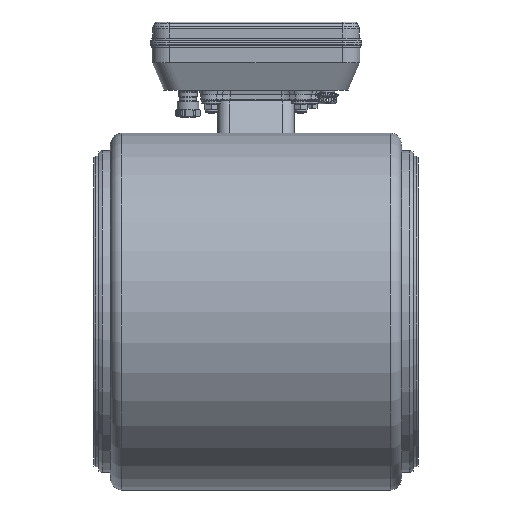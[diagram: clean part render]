
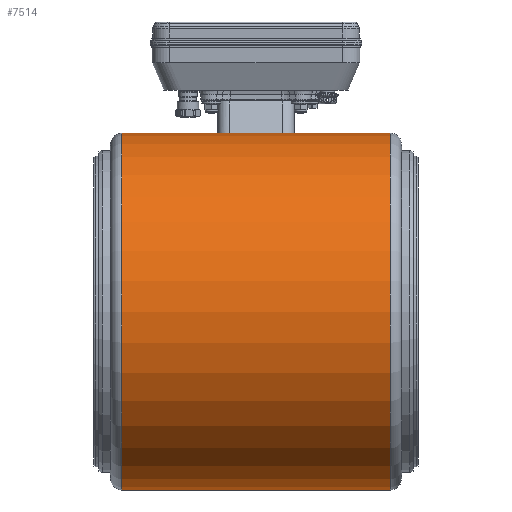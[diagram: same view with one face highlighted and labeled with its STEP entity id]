
A CAD part, front view. The second image highlights one B-rep face of the part: STEP entity #7514.
In plain terms, the highlighted cylindrical face has radius 110.05 mm (diameter 220.1 mm), a full revolution.
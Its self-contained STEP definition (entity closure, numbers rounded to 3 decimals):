
#203=B_SPLINE_CURVE_WITH_KNOTS('',3,(#13242,#13243,#13244,#13245,#13246,
#13247),.UNSPECIFIED.,.F.,.F.,(4,1,1,4),(0.,0.003,0.006,
0.011),.UNSPECIFIED.);
#204=B_SPLINE_CURVE_WITH_KNOTS('',3,(#13252,#13253,#13254,#13255,#13256,
#13257),.UNSPECIFIED.,.F.,.F.,(4,1,1,4),(0.,0.003,0.006,
0.011),.UNSPECIFIED.);
#205=B_SPLINE_CURVE_WITH_KNOTS('',3,(#13261,#13262,#13263,#13264,#13265,
#13266),.UNSPECIFIED.,.F.,.F.,(4,1,1,4),(0.,0.003,0.006,
0.011),.UNSPECIFIED.);
#206=B_SPLINE_CURVE_WITH_KNOTS('',3,(#13270,#13271,#13272,#13273,#13274,
#13275),.UNSPECIFIED.,.F.,.F.,(4,1,1,4),(0.,0.003,0.006,
0.011),.UNSPECIFIED.);
#895=LINE('',#13259,#1354);
#896=LINE('',#13277,#1355);
#1354=VECTOR('',#10540,1000.);
#1355=VECTOR('',#10543,1000.);
#3138=ORIENTED_EDGE('',*,*,#4325,.T.);
#3139=ORIENTED_EDGE('',*,*,#4326,.F.);
#3140=ORIENTED_EDGE('',*,*,#4327,.F.);
#3141=ORIENTED_EDGE('',*,*,#4328,.F.);
#3142=ORIENTED_EDGE('',*,*,#4329,.F.);
#3143=ORIENTED_EDGE('',*,*,#4330,.F.);
#3144=ORIENTED_EDGE('',*,*,#4331,.F.);
#3145=ORIENTED_EDGE('',*,*,#4332,.F.);
#3146=ORIENTED_EDGE('',*,*,#4333,.F.);
#3147=ORIENTED_EDGE('',*,*,#4334,.F.);
#4325=EDGE_CURVE('',#5061,#5061,#5554,.T.);
#4326=EDGE_CURVE('',#5062,#5063,#203,.T.);
#4327=EDGE_CURVE('',#5064,#5062,#5555,.F.);
#4328=EDGE_CURVE('',#5065,#5064,#204,.T.);
#4329=EDGE_CURVE('',#5066,#5065,#895,.T.);
#4330=EDGE_CURVE('',#5067,#5066,#205,.T.);
#4331=EDGE_CURVE('',#5068,#5067,#5556,.F.);
#4332=EDGE_CURVE('',#5069,#5068,#206,.T.);
#4333=EDGE_CURVE('',#5063,#5069,#896,.F.);
#4334=EDGE_CURVE('',#5070,#5070,#5557,.T.);
#5061=VERTEX_POINT('',#13241);
#5062=VERTEX_POINT('',#13248);
#5063=VERTEX_POINT('',#13249);
#5064=VERTEX_POINT('',#13251);
#5065=VERTEX_POINT('',#13258);
#5066=VERTEX_POINT('',#13260);
#5067=VERTEX_POINT('',#13267);
#5068=VERTEX_POINT('',#13269);
#5069=VERTEX_POINT('',#13276);
#5070=VERTEX_POINT('',#13279);
#5554=CIRCLE('',#8406,110.05);
#5555=CIRCLE('',#8407,110.05);
#5556=CIRCLE('',#8408,110.05);
#5557=CIRCLE('',#8409,110.05);
#6134=EDGE_LOOP('',(#3138));
#6135=EDGE_LOOP('',(#3139,#3140,#3141,#3142,#3143,#3144,#3145,#3146));
#6136=EDGE_LOOP('',(#3147));
#6804=FACE_BOUND('',#6134,.T.);
#6805=FACE_BOUND('',#6135,.T.);
#6806=FACE_BOUND('',#6136,.T.);
#7096=CYLINDRICAL_SURFACE('',#8405,110.05);
#7514=ADVANCED_FACE('',(#6804,#6805,#6806),#7096,.T.);
#8405=AXIS2_PLACEMENT_3D('',#13239,#10534,#10535);
#8406=AXIS2_PLACEMENT_3D('',#13240,#10536,#10537);
#8407=AXIS2_PLACEMENT_3D('',#13250,#10538,#10539);
#8408=AXIS2_PLACEMENT_3D('',#13268,#10541,#10542);
#8409=AXIS2_PLACEMENT_3D('',#13278,#10544,#10545);
#10534=DIRECTION('',(1.,0.,0.));
#10535=DIRECTION('',(0.,0.,-1.));
#10536=DIRECTION('',(1.,0.,0.));
#10537=DIRECTION('',(0.,0.,-1.));
#10538=DIRECTION('',(1.,0.,0.));
#10539=DIRECTION('',(0.,0.,-1.));
#10540=DIRECTION('',(1.,0.,0.));
#10541=DIRECTION('',(-1.,0.,0.));
#10542=DIRECTION('',(0.,0.,1.));
#10543=DIRECTION('',(1.,0.,0.));
#10544=DIRECTION('',(1.,0.,0.));
#10545=DIRECTION('',(0.,0.,-1.));
#13239=CARTESIAN_POINT('',(100.,0.,0.));
#13240=CARTESIAN_POINT('',(-82.75,0.,0.));
#13241=CARTESIAN_POINT('',(-82.75,0.,-110.05));
#13242=CARTESIAN_POINT('',(24.19,109.604,-9.9));
#13243=CARTESIAN_POINT('',(24.19,109.52,-10.829));
#13244=CARTESIAN_POINT('',(23.824,109.33,-12.656));
#13245=CARTESIAN_POINT('',(21.748,108.927,-15.784));
#13246=CARTESIAN_POINT('',(19.016,108.738,-16.94));
#13247=CARTESIAN_POINT('',(17.15,108.738,-16.94));
#13248=CARTESIAN_POINT('',(24.19,109.604,-9.9));
#13249=CARTESIAN_POINT('',(17.15,108.738,-16.94));
#13250=CARTESIAN_POINT('',(24.19,0.,0.));
#13251=CARTESIAN_POINT('',(24.19,109.604,9.9));
#13252=CARTESIAN_POINT('',(17.15,108.738,16.94));
#13253=CARTESIAN_POINT('',(18.083,108.738,16.94));
#13254=CARTESIAN_POINT('',(19.92,108.797,16.57));
#13255=CARTESIAN_POINT('',(23.049,109.107,14.478));
#13256=CARTESIAN_POINT('',(24.19,109.436,11.758));
#13257=CARTESIAN_POINT('',(24.19,109.604,9.9));
#13258=CARTESIAN_POINT('',(17.15,108.738,16.94));
#13259=CARTESIAN_POINT('',(100.,108.738,16.94));
#13260=CARTESIAN_POINT('',(-17.15,108.738,16.94));
#13261=CARTESIAN_POINT('',(-24.19,109.604,9.9));
#13262=CARTESIAN_POINT('',(-24.19,109.52,10.829));
#13263=CARTESIAN_POINT('',(-23.824,109.33,12.656));
#13264=CARTESIAN_POINT('',(-21.748,108.927,15.784));
#13265=CARTESIAN_POINT('',(-19.016,108.738,16.94));
#13266=CARTESIAN_POINT('',(-17.15,108.738,16.94));
#13267=CARTESIAN_POINT('',(-24.19,109.604,9.9));
#13268=CARTESIAN_POINT('',(-24.19,0.,0.));
#13269=CARTESIAN_POINT('',(-24.19,109.604,-9.9));
#13270=CARTESIAN_POINT('',(-17.15,108.738,-16.94));
#13271=CARTESIAN_POINT('',(-18.083,108.738,-16.94));
#13272=CARTESIAN_POINT('',(-19.92,108.797,-16.57));
#13273=CARTESIAN_POINT('',(-23.049,109.107,-14.478));
#13274=CARTESIAN_POINT('',(-24.19,109.436,-11.758));
#13275=CARTESIAN_POINT('',(-24.19,109.604,-9.9));
#13276=CARTESIAN_POINT('',(-17.15,108.738,-16.94));
#13277=CARTESIAN_POINT('',(100.,108.738,-16.94));
#13278=CARTESIAN_POINT('',(82.75,0.,0.));
#13279=CARTESIAN_POINT('',(82.75,0.,-110.05));
